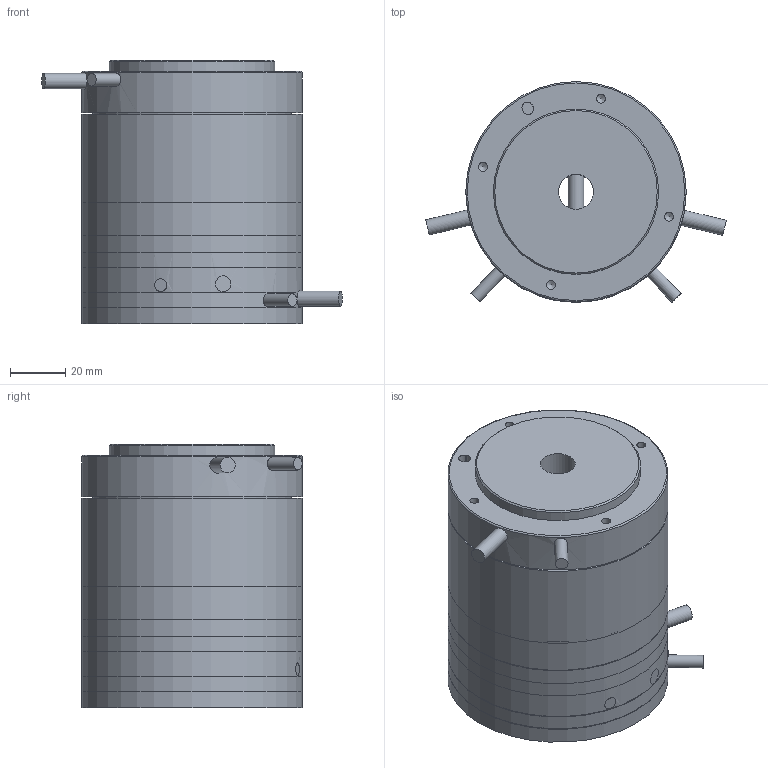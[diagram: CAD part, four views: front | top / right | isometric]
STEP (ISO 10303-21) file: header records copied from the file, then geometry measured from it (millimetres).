
FILE_DESCRIPTION( ( 'STEP AP203' ), '1' );
FILE_NAME( 'E:/LD 系列力矩电机/LD7 系列电机图纸/3D 外形图/LD7-080067 力矩电机.stp', '2016-03-25T04:00:24', ( ' ' ), ( ' ' ), 'XStep 1.0', ' ', ' ' );
FILE_SCHEMA( ( 'CONFIG_CONTROL_DESIGN) ( )' ) );
Length unit declared in the file: metre
Products named in the file (13): Assem1; Assem2; Assem3; Assem4; 1; 2; 3; 4; 5; 6; 7; 8; 9
Bounding box: 109.09 x 80 x 95.5 mm (x, y, z)
Surface area: 310635.4 mm2
Topology: 28 solids, 46 shells, 524 faces, 1217 edges, 838 vertices
Faces by surface type: cylinder 283, plane 157, cone 66, torus 18
Full cylindrical faces by diameter (mm): 2.013 x24, 2.459 x54, 3.2 x24, 3.242 x24, 4 x18, 4.6 x6, 5.6 x3, 5.8 x3, 6.5 x18, 12.7 x9, 18 x3, 20 x9, 36 x3, 40 x3, 44 x10, 46 x6, 50 x3, 60 x3, 61.978 x8, 62 x6, 70 x6, 71 x3, 72 x7, 73 x6, 80 x6
Entity records: 4774 total; most frequent: CARTESIAN_POINT 850, DIRECTION 758, ORIENTED_EDGE 420, EDGE_LOOP 376, AXIS2_PLACEMENT_3D 370, FACE_OUTER_BOUND 261, VERTEX_POINT 214, EDGE_CURVE 210
